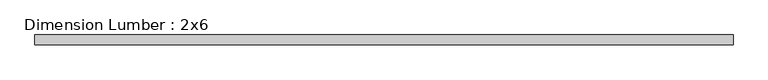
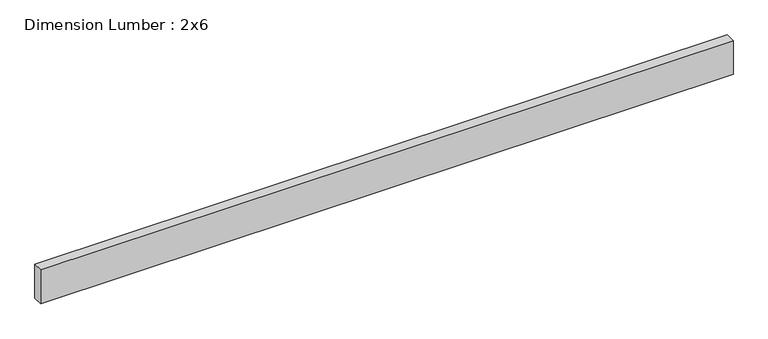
"""IFC4 building model written with IfcOpenShell, lengths in millimetres: beam geometry, Dimension Lumber : 2x6."""

from ifc_helpers import new_model, si_unit, frame, origin, place, context, project, spatial, polyline, outline, extrude, source, transform, mapped, element, save


def dimension_lumber_2x6_38b7acb6(model_context):
    return source(origin(), model_context, "Body", "SweptSolid", [
        extrude(outline(polyline([(1343.025, 19.05), (1343.025, -19.05), (-1362.075, -19.05), (-1362.075, 19.05), (1343.025, 19.05)])), frame((0.0, 0.0, -69.85), z_axis=(0.0, 0.0, 1.0), x_axis=(1.0, 0.0, 0.0)), (0.0, 0.0, 1.0), 139.7),
    ])


if __name__ == "__main__":
    model = new_model("IFC4")
    model_context = context("Model", 3, world=origin())
    ifc_project = project(units=[si_unit("LENGTHUNIT", "METRE", prefix="MILLI")], contexts=[model_context])
    site = spatial("IfcSite", under=ifc_project)
    building = spatial("IfcBuilding", under=site)
    placement = place(None, origin())
    dimension_lumber_2x6_shape = dimension_lumber_2x6_38b7acb6(model_context)
    element("IfcBeam", 1, ObjectType="Dimension Lumber : 2x6", at=placement, inside=building, context=model_context, shape_type="MappedRepresentation", body=[
        mapped(dimension_lumber_2x6_shape, transform((0.0, 0.0, 0.0), x_axis=(1.0, 0.0, 0.0), y_axis=(0.0, 1.0, 0.0), z_axis=(0.0, 0.0, 1.0))),
    ])
    save(model, "model.ifc")
